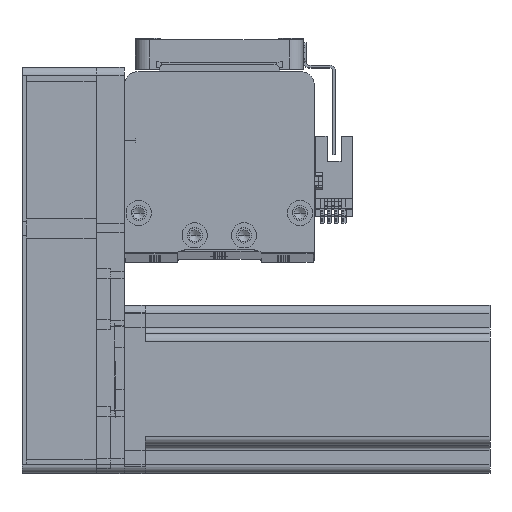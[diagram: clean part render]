
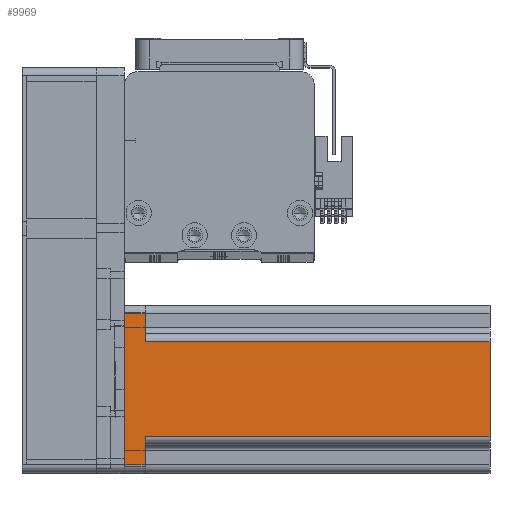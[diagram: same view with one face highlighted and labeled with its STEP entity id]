
A CAD part, top view. The second image highlights one B-rep face of the part: STEP entity #9969.
In plain terms, the highlighted planar face has unit normal (0, 0, 1) as drawn and (0, -1, 0) by its records, which use the part's own axes.
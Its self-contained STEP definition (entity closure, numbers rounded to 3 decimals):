
#397 = CARTESIAN_POINT ( 'NONE',  ( 27., -30., 0. ) ) ;
#525 = CARTESIAN_POINT ( 'NONE',  ( 17., -30., 7.5 ) ) ;
#1316 = DIRECTION ( 'NONE',  ( 0., 0., 1. ) ) ;
#1376 = VECTOR ( 'NONE', #3013, 1000. ) ;
#2499 = LINE ( 'NONE', #5178, #23659 ) ;
#2867 = CARTESIAN_POINT ( 'NONE',  ( 17., -30., 130.7 ) ) ;
#3013 = DIRECTION ( 'NONE',  ( 1., 0., 0. ) ) ;
#3331 = ORIENTED_EDGE ( 'NONE', *, *, #39069, .F. ) ;
#4159 = VERTEX_POINT ( 'NONE', #2867 ) ;
#4313 = VERTEX_POINT ( 'NONE', #397 ) ;
#5178 = CARTESIAN_POINT ( 'NONE',  ( -27., -30., 130.7 ) ) ;
#6319 = PLANE ( 'NONE',  #19894 ) ;
#7256 = CARTESIAN_POINT ( 'NONE',  ( 30., -30., 130.7 ) ) ;
#7296 = DIRECTION ( 'NONE',  ( -1., 0., 0. ) ) ;
#7324 = EDGE_CURVE ( 'NONE', #21265, #4159, #23897, .T. ) ;
#9969 = ADVANCED_FACE ( 'NONE', ( #51613 ), #6319, .F. ) ;
#10579 = VECTOR ( 'NONE', #42345, 1000. ) ;
#11789 = VECTOR ( 'NONE', #7296, 1000. ) ;
#11814 = VERTEX_POINT ( 'NONE', #12703 ) ;
#12703 = CARTESIAN_POINT ( 'NONE',  ( -17., -30., 7.5 ) ) ;
#14737 = ORIENTED_EDGE ( 'NONE', *, *, #7324, .F. ) ;
#14760 = ORIENTED_EDGE ( 'NONE', *, *, #49854, .T. ) ;
#15193 = VECTOR ( 'NONE', #1316, 1000. ) ;
#17027 = LINE ( 'NONE', #43732, #39560 ) ;
#17257 = VERTEX_POINT ( 'NONE', #44780 ) ;
#17971 = EDGE_CURVE ( 'NONE', #4313, #50383, #47574, .T. ) ;
#18390 = DIRECTION ( 'NONE',  ( 1., 0., 0. ) ) ;
#19809 = CARTESIAN_POINT ( 'NONE',  ( -17., -30., 130.7 ) ) ;
#19894 = AXIS2_PLACEMENT_3D ( 'NONE', #23323, #52798, #27561 ) ;
#20620 = VECTOR ( 'NONE', #54430, 1000. ) ;
#21204 = EDGE_LOOP ( 'NONE', ( #14737, #43127, #3331, #49321, #22967, #53898, #14760, #22040 ) ) ;
#21265 = VERTEX_POINT ( 'NONE', #19809 ) ;
#21821 = LINE ( 'NONE', #29613, #10579 ) ;
#22040 = ORIENTED_EDGE ( 'NONE', *, *, #45051, .T. ) ;
#22589 = CARTESIAN_POINT ( 'NONE',  ( 27., -30., 130.7 ) ) ;
#22967 = ORIENTED_EDGE ( 'NONE', *, *, #49603, .T. ) ;
#23323 = CARTESIAN_POINT ( 'NONE',  ( 30., -30., 130.7 ) ) ;
#23430 = DIRECTION ( 'NONE',  ( 0., 0., -1. ) ) ;
#23659 = VECTOR ( 'NONE', #30183, 1000. ) ;
#23897 = LINE ( 'NONE', #7256, #1376 ) ;
#25526 = VERTEX_POINT ( 'NONE', #51848 ) ;
#27107 = VECTOR ( 'NONE', #23430, 1000. ) ;
#27561 = DIRECTION ( 'NONE',  ( -1., 0., 0. ) ) ;
#28365 = CARTESIAN_POINT ( 'NONE',  ( 20., -30., 7.5 ) ) ;
#28543 = EDGE_CURVE ( 'NONE', #17257, #25526, #2499, .T. ) ;
#29613 = CARTESIAN_POINT ( 'NONE',  ( -20., -30., 7.5 ) ) ;
#30183 = DIRECTION ( 'NONE',  ( 0., 0., -1. ) ) ;
#39069 = EDGE_CURVE ( 'NONE', #17257, #11814, #21821, .T. ) ;
#39560 = VECTOR ( 'NONE', #18390, 1000. ) ;
#40283 = CARTESIAN_POINT ( 'NONE',  ( -17., -30., 130.7 ) ) ;
#42167 = CARTESIAN_POINT ( 'NONE',  ( 27., -30., 7.5 ) ) ;
#42345 = DIRECTION ( 'NONE',  ( 1., 0., 0. ) ) ;
#43127 = ORIENTED_EDGE ( 'NONE', *, *, #52346, .T. ) ;
#43732 = CARTESIAN_POINT ( 'NONE',  ( 30., -30., 0. ) ) ;
#44780 = CARTESIAN_POINT ( 'NONE',  ( -27., -30., 7.5 ) ) ;
#45051 = EDGE_CURVE ( 'NONE', #50450, #4159, #54220, .T. ) ;
#45546 = LINE ( 'NONE', #28365, #11789 ) ;
#46059 = CARTESIAN_POINT ( 'NONE',  ( 17., -30., 130.7 ) ) ;
#47574 = LINE ( 'NONE', #22589, #15193 ) ;
#49321 = ORIENTED_EDGE ( 'NONE', *, *, #28543, .T. ) ;
#49585 = LINE ( 'NONE', #40283, #27107 ) ;
#49603 = EDGE_CURVE ( 'NONE', #25526, #4313, #17027, .T. ) ;
#49854 = EDGE_CURVE ( 'NONE', #50383, #50450, #45546, .T. ) ;
#50383 = VERTEX_POINT ( 'NONE', #42167 ) ;
#50450 = VERTEX_POINT ( 'NONE', #525 ) ;
#51613 = FACE_OUTER_BOUND ( 'NONE', #21204, .T. ) ;
#51848 = CARTESIAN_POINT ( 'NONE',  ( -27., -30., 0. ) ) ;
#52346 = EDGE_CURVE ( 'NONE', #21265, #11814, #49585, .T. ) ;
#52798 = DIRECTION ( 'NONE',  ( 0., 1., 0. ) ) ;
#53898 = ORIENTED_EDGE ( 'NONE', *, *, #17971, .T. ) ;
#54220 = LINE ( 'NONE', #46059, #20620 ) ;
#54430 = DIRECTION ( 'NONE',  ( 0., 0., 1. ) ) ;
